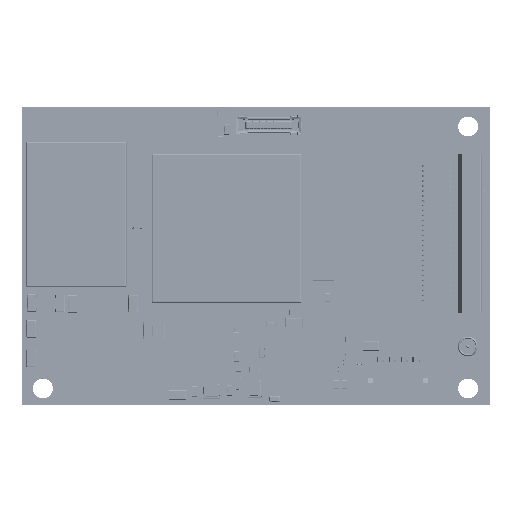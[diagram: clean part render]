
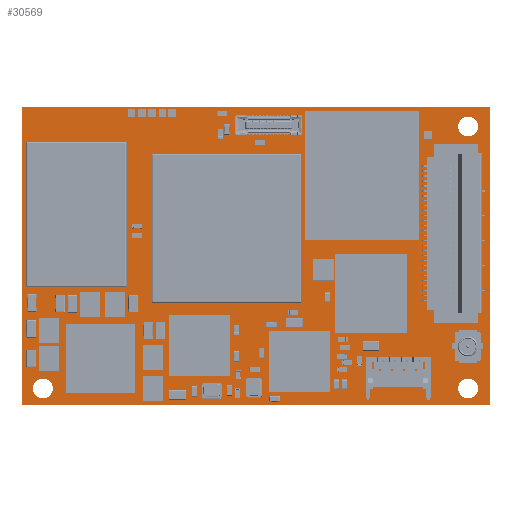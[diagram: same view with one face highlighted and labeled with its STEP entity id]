
A CAD part, top view. The second image highlights one B-rep face of the part: STEP entity #30569.
In plain terms, the highlighted planar face has unit normal (0, 0, 1).
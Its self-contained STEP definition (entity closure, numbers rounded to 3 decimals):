
#30569=ADVANCED_FACE('',(#59654,#59655,#59656,#59657),#59658,.T.);
#59654=FACE_BOUND('',#94767,.T.);
#59655=FACE_BOUND('',#94768,.T.);
#59656=FACE_BOUND('',#94769,.T.);
#59657=FACE_OUTER_BOUND('',#94770,.T.);
#59658=PLANE('',#94771);
#94767=EDGE_LOOP('',(#165148));
#94768=EDGE_LOOP('',(#165149));
#94769=EDGE_LOOP('',(#165150));
#94770=EDGE_LOOP('',(#165151,#165152,#165153,#165154));
#94771=AXIS2_PLACEMENT_3D('',#165155,#165156,#165157);
#165148=ORIENTED_EDGE('',*,*,#199666,.T.);
#165149=ORIENTED_EDGE('',*,*,#199669,.T.);
#165150=ORIENTED_EDGE('',*,*,#199672,.T.);
#165151=ORIENTED_EDGE('',*,*,#199675,.T.);
#165152=ORIENTED_EDGE('',*,*,#199676,.T.);
#165153=ORIENTED_EDGE('',*,*,#199677,.T.);
#165154=ORIENTED_EDGE('',*,*,#199678,.T.);
#165155=CARTESIAN_POINT('',(23.5,15.0,1.584));
#165156=DIRECTION('',(0.0,0.0,1.0));
#165157=DIRECTION('',(1.0,0.0,0.0));
#199666=EDGE_CURVE('',#241214,#241214,#241215,.T.);
#199669=EDGE_CURVE('',#241219,#241219,#241220,.T.);
#199672=EDGE_CURVE('',#241224,#241224,#241225,.T.);
#199675=EDGE_CURVE('',#241229,#241230,#241231,.T.);
#199676=EDGE_CURVE('',#241230,#241232,#241233,.T.);
#199677=EDGE_CURVE('',#241232,#241234,#241235,.T.);
#199678=EDGE_CURVE('',#241234,#241229,#241236,.T.);
#241214=VERTEX_POINT('',#303318);
#241215=CIRCLE('',#303319,1.0);
#241219=VERTEX_POINT('',#303323);
#241220=CIRCLE('',#303324,1.0);
#241224=VERTEX_POINT('',#303328);
#241225=CIRCLE('',#303329,1.0);
#241229=VERTEX_POINT('',#303333);
#241230=VERTEX_POINT('',#303334);
#241231=LINE('',#303335,#303336);
#241232=VERTEX_POINT('',#303337);
#241233=LINE('',#303338,#303339);
#241234=VERTEX_POINT('',#303340);
#241235=LINE('',#303341,#303342);
#241236=LINE('',#303343,#303344);
#303318=CARTESIAN_POINT('',(44.8,29.0,1.584));
#303319=AXIS2_PLACEMENT_3D('',#335914,#335915,#335916);
#303323=CARTESIAN_POINT('',(44.8,2.7,1.584));
#303324=AXIS2_PLACEMENT_3D('',#335920,#335921,#335922);
#303328=CARTESIAN_POINT('',(2.1,2.7,1.584));
#303329=AXIS2_PLACEMENT_3D('',#335926,#335927,#335928);
#303333=CARTESIAN_POINT('',(0.0,0.0,1.584));
#303334=CARTESIAN_POINT('',(47.0,0.0,1.584));
#303335=CARTESIAN_POINT('',(23.5,0.0,1.584));
#303336=VECTOR('',#335932,1.0);
#303337=CARTESIAN_POINT('',(47.0,30.0,1.584));
#303338=CARTESIAN_POINT('',(47.0,15.0,1.584));
#303339=VECTOR('',#335933,1.0);
#303340=CARTESIAN_POINT('',(0.0,30.0,1.584));
#303341=CARTESIAN_POINT('',(23.5,30.0,1.584));
#303342=VECTOR('',#335934,1.0);
#303343=CARTESIAN_POINT('',(0.0,15.0,1.584));
#303344=VECTOR('',#335935,1.0);
#335914=CARTESIAN_POINT('',(44.8,28.0,1.584));
#335915=DIRECTION('',(0.0,0.0,-1.0));
#335916=DIRECTION('',(0.0,1.0,0.0));
#335920=CARTESIAN_POINT('',(44.8,1.7,1.584));
#335921=DIRECTION('',(0.0,0.0,-1.0));
#335922=DIRECTION('',(0.0,1.0,0.0));
#335926=CARTESIAN_POINT('',(2.1,1.7,1.584));
#335927=DIRECTION('',(0.0,0.0,-1.0));
#335928=DIRECTION('',(0.0,1.0,0.0));
#335932=DIRECTION('',(1.0,0.0,0.0));
#335933=DIRECTION('',(0.0,1.0,0.0));
#335934=DIRECTION('',(-1.0,0.0,0.0));
#335935=DIRECTION('',(0.0,-1.0,0.0));
